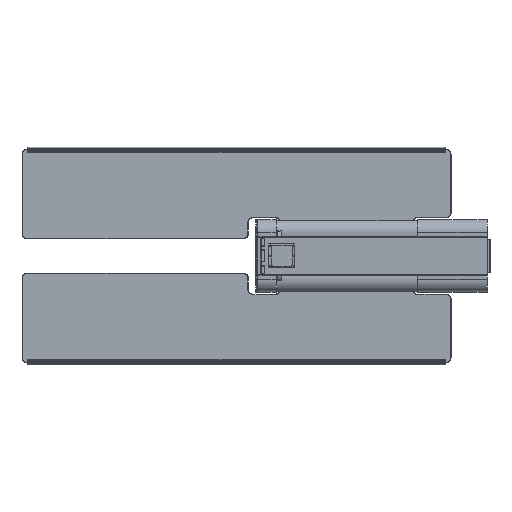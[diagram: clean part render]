
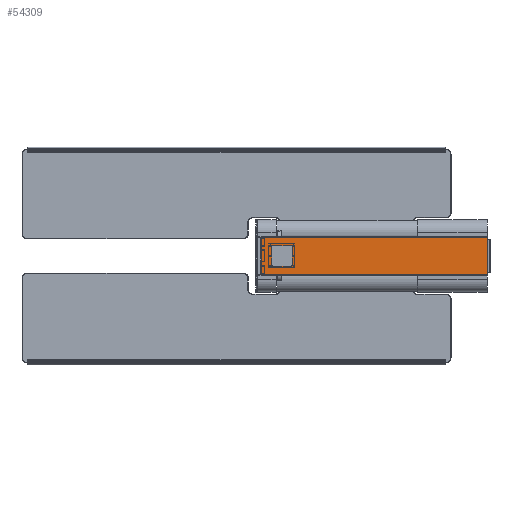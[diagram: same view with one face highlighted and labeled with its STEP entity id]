
A CAD part, left-side view. The second image highlights one B-rep face of the part: STEP entity #54309.
In plain terms, the highlighted planar face has unit normal (-1, 0, 0).
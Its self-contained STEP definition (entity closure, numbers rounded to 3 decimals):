
#45 = LINE ( 'NONE', #18364, #17382 ) ;
#192 = LINE ( 'NONE', #35185, #52533 ) ;
#482 = VECTOR ( 'NONE', #41524, 1000. ) ;
#628 = CARTESIAN_POINT ( 'NONE',  ( 0., 754., -36. ) ) ;
#1057 = EDGE_CURVE ( 'NONE', #19031, #21757, #192, .T. ) ;
#2953 = ORIENTED_EDGE ( 'NONE', *, *, #46556, .F. ) ;
#3639 = ORIENTED_EDGE ( 'NONE', *, *, #50308, .F. ) ;
#4508 = CARTESIAN_POINT ( 'NONE',  ( 0., 830., -36. ) ) ;
#5011 = CARTESIAN_POINT ( 'NONE',  ( 0., 754., -40. ) ) ;
#5221 = EDGE_CURVE ( 'NONE', #15342, #27526, #21316, .T. ) ;
#5406 = ORIENTED_EDGE ( 'NONE', *, *, #51249, .T. ) ;
#5931 = EDGE_LOOP ( 'NONE', ( #2953, #54022, #35624, #26228, #5406, #38171, #3639, #54822 ) ) ;
#6534 = LINE ( 'NONE', #24003, #482 ) ;
#6562 = CIRCLE ( 'NONE', #16661, 4. ) ;
#6590 = EDGE_CURVE ( 'NONE', #38127, #55726, #6534, .T. ) ;
#7192 = VERTEX_POINT ( 'NONE', #5011 ) ;
#9401 = DIRECTION ( 'NONE',  ( 0., 0., 1. ) ) ;
#9966 = VERTEX_POINT ( 'NONE', #40793 ) ;
#10272 = AXIS2_PLACEMENT_3D ( 'NONE', #25169, #37809, #24303 ) ;
#11247 = DIRECTION ( 'NONE',  ( -1., 0., 0. ) ) ;
#11585 = CARTESIAN_POINT ( 'NONE',  ( 0., 830., -36. ) ) ;
#11868 = DIRECTION ( 'NONE',  ( 0., 0., -1. ) ) ;
#11949 = LINE ( 'NONE', #19716, #50625 ) ;
#12704 = CARTESIAN_POINT ( 'NONE',  ( 0., 750., -36. ) ) ;
#13147 = VECTOR ( 'NONE', #18794, 1000. ) ;
#13351 = DIRECTION ( 'NONE',  ( 0., 1., 0. ) ) ;
#14115 = DIRECTION ( 'NONE',  ( 0., -1., 0. ) ) ;
#14552 = CARTESIAN_POINT ( 'NONE',  ( 0., 826., 40. ) ) ;
#15193 = CARTESIAN_POINT ( 'NONE',  ( 0., 3., 70.999 ) ) ;
#15342 = VERTEX_POINT ( 'NONE', #37280 ) ;
#16661 = AXIS2_PLACEMENT_3D ( 'NONE', #47993, #26131, #43660 ) ;
#16972 = VERTEX_POINT ( 'NONE', #12704 ) ;
#17382 = VECTOR ( 'NONE', #26398, 1000. ) ;
#17594 = CARTESIAN_POINT ( 'NONE',  ( 0., 826., -40. ) ) ;
#18364 = CARTESIAN_POINT ( 'NONE',  ( 0., 870., -74. ) ) ;
#18503 = FACE_OUTER_BOUND ( 'NONE', #5931, .T. ) ;
#18794 = DIRECTION ( 'NONE',  ( 0., -1., 0. ) ) ;
#18806 = LINE ( 'NONE', #27975, #35877 ) ;
#19031 = VERTEX_POINT ( 'NONE', #32985 ) ;
#19196 = VERTEX_POINT ( 'NONE', #35841 ) ;
#19363 = CARTESIAN_POINT ( 'NONE',  ( 0., 870., 71. ) ) ;
#19716 = CARTESIAN_POINT ( 'NONE',  ( 0., 3.001, -74. ) ) ;
#20391 = ORIENTED_EDGE ( 'NONE', *, *, #46074, .F. ) ;
#21316 = CIRCLE ( 'NONE', #10272, 4. ) ;
#21757 = VERTEX_POINT ( 'NONE', #33075 ) ;
#22307 = CARTESIAN_POINT ( 'NONE',  ( 0., 750., -36. ) ) ;
#24003 = CARTESIAN_POINT ( 'NONE',  ( 0., 870., 71. ) ) ;
#24023 = VECTOR ( 'NONE', #14115, 1000. ) ;
#24303 = DIRECTION ( 'NONE',  ( 0., 0., -1. ) ) ;
#25169 = CARTESIAN_POINT ( 'NONE',  ( 0., 754., 36. ) ) ;
#25226 = LINE ( 'NONE', #29812, #33552 ) ;
#25253 = EDGE_CURVE ( 'NONE', #50879, #43700, #25226, .T. ) ;
#25911 = LINE ( 'NONE', #30222, #40332 ) ;
#26131 = DIRECTION ( 'NONE',  ( -1., 0., 0. ) ) ;
#26228 = ORIENTED_EDGE ( 'NONE', *, *, #6590, .T. ) ;
#26398 = DIRECTION ( 'NONE',  ( 0., 0., 1. ) ) ;
#26550 = VERTEX_POINT ( 'NONE', #4508 ) ;
#26608 = LINE ( 'NONE', #22307, #46085 ) ;
#26660 = ORIENTED_EDGE ( 'NONE', *, *, #37897, .F. ) ;
#26996 = DIRECTION ( 'NONE',  ( -1., 0., 0. ) ) ;
#27526 = VERTEX_POINT ( 'NONE', #55939 ) ;
#27975 = CARTESIAN_POINT ( 'NONE',  ( 0., 826., 40. ) ) ;
#29619 = DIRECTION ( 'NONE',  ( 0., 0., -1. ) ) ;
#29812 = CARTESIAN_POINT ( 'NONE',  ( 0., 1.5, -71. ) ) ;
#30222 = CARTESIAN_POINT ( 'NONE',  ( 0., 3., -74. ) ) ;
#30291 = DIRECTION ( 'NONE',  ( 1., 0., 0. ) ) ;
#30763 = CIRCLE ( 'NONE', #56531, 4. ) ;
#31321 = CIRCLE ( 'NONE', #49705, 4. ) ;
#32540 = LINE ( 'NONE', #19363, #13147 ) ;
#32985 = CARTESIAN_POINT ( 'NONE',  ( 0., 3., -70.999 ) ) ;
#33075 = CARTESIAN_POINT ( 'NONE',  ( 0., 3., -70.999 ) ) ;
#33235 = CARTESIAN_POINT ( 'NONE',  ( 0., 3., 73.585 ) ) ;
#33552 = VECTOR ( 'NONE', #38920, 1000. ) ;
#35177 = PLANE ( 'NONE',  #53471 ) ;
#35185 = CARTESIAN_POINT ( 'NONE',  ( 0., 870., -70.999 ) ) ;
#35624 = ORIENTED_EDGE ( 'NONE', *, *, #41536, .F. ) ;
#35841 = CARTESIAN_POINT ( 'NONE',  ( 0., 826., -40. ) ) ;
#35877 = VECTOR ( 'NONE', #37437, 1000. ) ;
#37280 = CARTESIAN_POINT ( 'NONE',  ( 0., 750., 36. ) ) ;
#37332 = EDGE_CURVE ( 'NONE', #27526, #56551, #18806, .T. ) ;
#37437 = DIRECTION ( 'NONE',  ( 0., 1., 0. ) ) ;
#37809 = DIRECTION ( 'NONE',  ( -1., 0., 0. ) ) ;
#37897 = EDGE_CURVE ( 'NONE', #26550, #19196, #31321, .T. ) ;
#38127 = VERTEX_POINT ( 'NONE', #15193 ) ;
#38171 = ORIENTED_EDGE ( 'NONE', *, *, #54609, .F. ) ;
#38790 = VECTOR ( 'NONE', #11868, 1000. ) ;
#38920 = DIRECTION ( 'NONE',  ( 0., 1., 0. ) ) ;
#39074 = VERTEX_POINT ( 'NONE', #52628 ) ;
#39162 = EDGE_CURVE ( 'NONE', #7192, #16972, #30763, .T. ) ;
#39473 = CARTESIAN_POINT ( 'NONE',  ( 0., 870., -74. ) ) ;
#40304 = CARTESIAN_POINT ( 'NONE',  ( 0., 3., 70.999 ) ) ;
#40332 = VECTOR ( 'NONE', #43439, 1000. ) ;
#40793 = CARTESIAN_POINT ( 'NONE',  ( 0., 870., 71. ) ) ;
#41524 = DIRECTION ( 'NONE',  ( 0., 1., 0. ) ) ;
#41536 = EDGE_CURVE ( 'NONE', #38127, #19031, #46765, .T. ) ;
#42567 = ORIENTED_EDGE ( 'NONE', *, *, #39162, .F. ) ;
#42922 = VECTOR ( 'NONE', #50804, 1000. ) ;
#43175 = CARTESIAN_POINT ( 'NONE',  ( 0., 3., 71. ) ) ;
#43439 = DIRECTION ( 'NONE',  ( 0., 0., 1. ) ) ;
#43606 = EDGE_LOOP ( 'NONE', ( #54324, #26660, #53688, #20391, #50445, #53972, #56051, #42567 ) ) ;
#43660 = DIRECTION ( 'NONE',  ( 0., 0., -1. ) ) ;
#43700 = VERTEX_POINT ( 'NONE', #49370 ) ;
#44544 = DIRECTION ( 'NONE',  ( 0., 0., -1. ) ) ;
#44562 = LINE ( 'NONE', #17594, #24023 ) ;
#44642 = FACE_BOUND ( 'NONE', #43606, .T. ) ;
#46074 = EDGE_CURVE ( 'NONE', #56551, #39074, #6562, .T. ) ;
#46085 = VECTOR ( 'NONE', #9401, 1000. ) ;
#46556 = EDGE_CURVE ( 'NONE', #21757, #50879, #11949, .T. ) ;
#46706 = EDGE_CURVE ( 'NONE', #19196, #7192, #44562, .T. ) ;
#46765 = LINE ( 'NONE', #33235, #42922 ) ;
#47211 = EDGE_CURVE ( 'NONE', #16972, #15342, #26608, .T. ) ;
#47840 = DIRECTION ( 'NONE',  ( 0., 0., -1. ) ) ;
#47993 = CARTESIAN_POINT ( 'NONE',  ( 0., 826., 36. ) ) ;
#49370 = CARTESIAN_POINT ( 'NONE',  ( 0., 870., -71. ) ) ;
#49705 = AXIS2_PLACEMENT_3D ( 'NONE', #56382, #11247, #29619 ) ;
#50308 = EDGE_CURVE ( 'NONE', #43700, #9966, #45, .T. ) ;
#50445 = ORIENTED_EDGE ( 'NONE', *, *, #37332, .F. ) ;
#50625 = VECTOR ( 'NONE', #54789, 1000. ) ;
#50804 = DIRECTION ( 'NONE',  ( 0., 0., -1. ) ) ;
#50879 = VERTEX_POINT ( 'NONE', #54067 ) ;
#51249 = EDGE_CURVE ( 'NONE', #55726, #52241, #25911, .T. ) ;
#51804 = LINE ( 'NONE', #11585, #38790 ) ;
#52241 = VERTEX_POINT ( 'NONE', #43175 ) ;
#52533 = VECTOR ( 'NONE', #13351, 1000. ) ;
#52628 = CARTESIAN_POINT ( 'NONE',  ( 0., 830., 36. ) ) ;
#53471 = AXIS2_PLACEMENT_3D ( 'NONE', #39473, #30291, #47840 ) ;
#53688 = ORIENTED_EDGE ( 'NONE', *, *, #54679, .F. ) ;
#53972 = ORIENTED_EDGE ( 'NONE', *, *, #5221, .F. ) ;
#54022 = ORIENTED_EDGE ( 'NONE', *, *, #1057, .F. ) ;
#54067 = CARTESIAN_POINT ( 'NONE',  ( 0., 3., -71. ) ) ;
#54309 = ADVANCED_FACE ( 'NONE', ( #44642, #18503 ), #35177, .F. ) ;
#54324 = ORIENTED_EDGE ( 'NONE', *, *, #46706, .F. ) ;
#54609 = EDGE_CURVE ( 'NONE', #9966, #52241, #32540, .T. ) ;
#54679 = EDGE_CURVE ( 'NONE', #39074, #26550, #51804, .T. ) ;
#54789 = DIRECTION ( 'NONE',  ( 0., 0., -1. ) ) ;
#54822 = ORIENTED_EDGE ( 'NONE', *, *, #25253, .F. ) ;
#55726 = VERTEX_POINT ( 'NONE', #40304 ) ;
#55939 = CARTESIAN_POINT ( 'NONE',  ( 0., 754., 40. ) ) ;
#56051 = ORIENTED_EDGE ( 'NONE', *, *, #47211, .F. ) ;
#56382 = CARTESIAN_POINT ( 'NONE',  ( 0., 826., -36. ) ) ;
#56531 = AXIS2_PLACEMENT_3D ( 'NONE', #628, #26996, #44544 ) ;
#56551 = VERTEX_POINT ( 'NONE', #14552 ) ;
